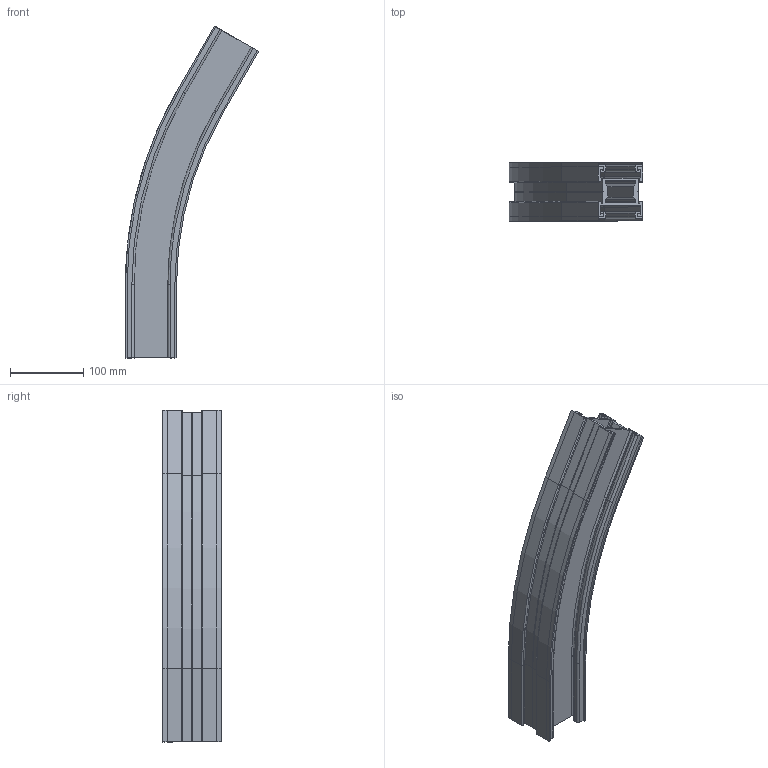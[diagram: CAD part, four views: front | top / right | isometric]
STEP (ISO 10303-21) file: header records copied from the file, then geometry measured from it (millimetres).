
FILE_DESCRIPTION (( 'STEP AP203' ), '1' );
FILE_NAME ('R1C500-30.STEP', '2008-11-24T14:39:12', ( 'faber' ), ( '' ), 'SwSTEP 2.0', 'SolidWorks 2008', '' );
FILE_SCHEMA (( 'CONFIG_CONTROL_DESIGN' ));
Length unit declared in the file: millimetre
Products named in the file (1): R1C500-30
Bounding box: 182.3 x 79.8 x 454.1 mm (x, y, z)
Surface area: 307020.4 mm2 (no closed solid volume)
Topology: 0 solids, 5 shells, 216 faces, 650 edges, 434 vertices
Faces by surface type: plane 116, cylinder 72, bspline 20, cone 8
Entity records: 8077 total; most frequent: CARTESIAN_POINT 2237, DIRECTION 1198, ORIENTED_EDGE 1148, EDGE_CURVE 650, VECTOR 464, LINE 464, VERTEX_POINT 434, AXIS2_PLACEMENT_3D 367
